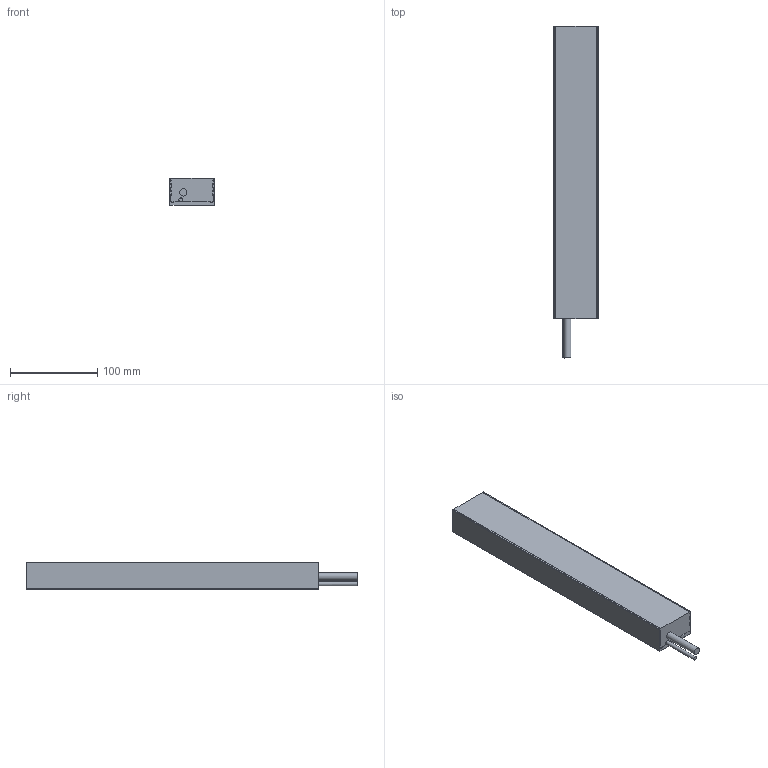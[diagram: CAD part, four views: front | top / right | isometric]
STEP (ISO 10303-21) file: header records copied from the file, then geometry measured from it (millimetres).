
FILE_DESCRIPTION(/* description */ ('Unknown'),/* implementation_level */ '2;1');
FILE_NAME(/* name */ 'Coilunit TM 18_180504',/* time_stamp */ '2018-05-17T08:41:34+02:00',/* author */ ('Tecnotion B.V.'),/* organization */ ('Tecnotion B.V.'),/* preprocessor_version */ 'ST-DEVELOPER v16.7',/* originating_system */ 'DEX',/* authorisation */ $);
FILE_SCHEMA (('CONFIG_CONTROL_DESIGN'));
Length unit declared in the file: millimetre
Products named in the file (1): Coilunit TM 18_180504
Bounding box: 51 x 381 x 31.4 mm (x, y, z)
Volume: 537365.8 mm3; surface area: 61738.7 mm2
Topology: 1 solids, 1 shells, 269 faces, 720 edges, 482 vertices
Faces by surface type: plane 210, cylinder 59
Full cylindrical faces by diameter (mm): 2.459 x2, 3.3 x8, 4.3 x1, 5 x1, 8.3 x1
Entity records: 10084 total; most frequent: CARTESIAN_POINT 1437, ORIENTED_EDGE 1392, DIRECTION 1355, EDGE_CURVE 696, LINE 577, VECTOR 577, VERTEX_POINT 471, AXIS2_PLACEMENT_3D 389
